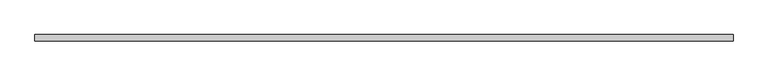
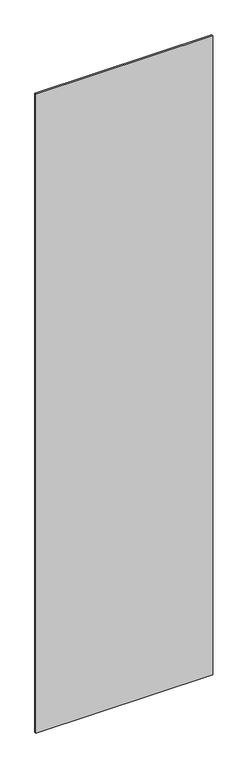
"""IFC4 building model written with IfcOpenShell, lengths in millimetres: plate geometry, システム パネル : 標準."""

from ifc_helpers import new_model, si_unit, origin, origin_with_axes, place, context, project, spatial, polyline, outline, extrude, source, transform, mapped, element, save


def plate_f0e572d7(model_context):
    return source(origin(), model_context, "Body", "SweptSolid", [
        extrude(outline(polyline([(570.8204416, -5.0), (-570.8204416, -5.0), (-570.8204416, 5.0), (570.8204416, 5.0), (570.8204416, -5.0)])), origin_with_axes(), (0.0, 0.0, 1.0), 4360.0),
    ])


if __name__ == "__main__":
    model = new_model("IFC4")
    model_context = context("Model", 3, world=origin())
    ifc_project = project(units=[si_unit("LENGTHUNIT", "METRE", prefix="MILLI")], contexts=[model_context])
    site = spatial("IfcSite", under=ifc_project)
    building = spatial("IfcBuilding", under=site)
    placement = place(None, origin())
    plate_shape = plate_f0e572d7(model_context)
    element("IfcPlate", 1, ObjectType="システム パネル : 標準", at=placement, inside=building, context=model_context, shape_type="MappedRepresentation", body=[
        mapped(plate_shape, transform((0.0, 0.0, 0.0), x_axis=(1.0, 0.0, 0.0), y_axis=(0.0, 1.0, 0.0), z_axis=(0.0, 0.0, 1.0))),
    ])
    save(model, "model.ifc")
